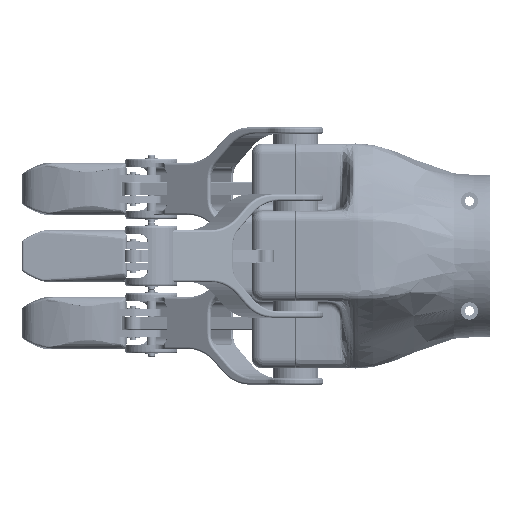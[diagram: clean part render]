
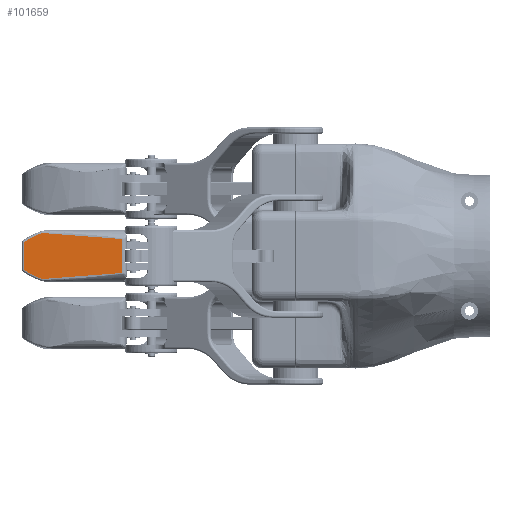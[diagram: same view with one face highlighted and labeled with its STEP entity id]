
A CAD part, left-side view. The second image highlights one B-rep face of the part: STEP entity #101659.
In plain terms, the highlighted planar face has unit normal (-1, 0, 0).
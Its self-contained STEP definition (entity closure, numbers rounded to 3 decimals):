
#317 = CARTESIAN_POINT ( 'NONE',  ( -78.634, 125.929, 9.083 ) ) ;
#973 = DIRECTION ( 'NONE',  ( 0., 0., 1. ) ) ;
#4753 = EDGE_CURVE ( 'NONE', #319670, #211861, #205089, .T. ) ;
#10789 = CARTESIAN_POINT ( 'NONE',  ( -78.634, 157.18, 9.685 ) ) ;
#15147 = VERTEX_POINT ( 'NONE', #215049 ) ;
#20615 =( BOUNDED_CURVE ( )  B_SPLINE_CURVE ( 3, ( #300114, #263719, #334893, #162502 ),
 .UNSPECIFIED., .F., .F. ) 
 B_SPLINE_CURVE_WITH_KNOTS ( ( 4, 4 ),
 ( 5.119, 5.739 ),
 .UNSPECIFIED. ) 
 CURVE ( )  GEOMETRIC_REPRESENTATION_ITEM ( )  RATIONAL_B_SPLINE_CURVE ( ( 1., 0.968, 0.968, 1. ) ) 
 REPRESENTATION_ITEM ( '' )  );
#21319 = VECTOR ( 'NONE', #164116, 1000. ) ;
#39551 = CARTESIAN_POINT ( 'NONE',  ( -78.634, 154.151, 10.63 ) ) ;
#46308 = CARTESIAN_POINT ( 'NONE',  ( -78.634, 117.193, 12. ) ) ;
#47387 = CARTESIAN_POINT ( 'NONE',  ( -78.634, 162.597, -6.404 ) ) ;
#49676 = CARTESIAN_POINT ( 'NONE',  ( -78.634, 117.193, 7.825 ) ) ;
#51577 = EDGE_CURVE ( 'NONE', #409355, #206285, #181953, .T. ) ;
#53320 = ORIENTED_EDGE ( 'NONE', *, *, #364826, .T. ) ;
#53704 = EDGE_CURVE ( 'NONE', #409355, #15147, #375270, .T. ) ;
#68752 = DIRECTION ( 'NONE',  ( 0., -1., 0. ) ) ;
#101659 = ADVANCED_FACE ( 'NONE', ( #187487 ), #380056, .F. ) ;
#104540 = CARTESIAN_POINT ( 'NONE',  ( -78.634, 117.193, 7.825 ) ) ;
#109748 = CARTESIAN_POINT ( 'NONE',  ( -78.634, 162.597, -12. ) ) ;
#110062 = CARTESIAN_POINT ( 'NONE',  ( -78.634, 117.193, -7.825 ) ) ;
#127456 = CARTESIAN_POINT ( 'NONE',  ( -78.634, 162.597, -6.404 ) ) ;
#128739 = CARTESIAN_POINT ( 'NONE',  ( -78.634, 154.151, -10.63 ) ) ;
#132085 = ORIENTED_EDGE ( 'NONE', *, *, #51577, .T. ) ;
#140698 = VERTEX_POINT ( 'NONE', #356651 ) ;
#162502 = CARTESIAN_POINT ( 'NONE',  ( -78.634, 117.193, -7.825 ) ) ;
#164116 = DIRECTION ( 'NONE',  ( 0., 0., 1. ) ) ;
#175515 = CARTESIAN_POINT ( 'NONE',  ( -78.634, 138.653, 10.048 ) ) ;
#179730 = ORIENTED_EDGE ( 'NONE', *, *, #406550, .T. ) ;
#181953 =( BOUNDED_CURVE ( )  B_SPLINE_CURVE ( 3, ( #127456, #328516, #432863, #260390 ),
 .UNSPECIFIED., .F., .T. ) 
 B_SPLINE_CURVE_WITH_KNOTS ( ( 4, 4 ),
 ( 1.734, 2.059 ),
 .UNSPECIFIED. ) 
 CURVE ( )  GEOMETRIC_REPRESENTATION_ITEM ( )  RATIONAL_B_SPLINE_CURVE ( ( 1., 0.991, 0.991, 1. ) ) 
 REPRESENTATION_ITEM ( '' )  );
#187487 = FACE_OUTER_BOUND ( 'NONE', #268826, .T. ) ;
#196625 = CARTESIAN_POINT ( 'NONE',  ( -78.634, 162.597, 6.404 ) ) ;
#202603 = EDGE_CURVE ( 'NONE', #211861, #140698, #243359, .T. ) ;
#205089 = LINE ( 'NONE', #46308, #21319 ) ;
#206285 = VERTEX_POINT ( 'NONE', #128739 ) ;
#207786 = CARTESIAN_POINT ( 'NONE',  ( -78.634, 108.23, -12. ) ) ;
#211861 = VERTEX_POINT ( 'NONE', #49676 ) ;
#213097 =( BOUNDED_CURVE ( )  B_SPLINE_CURVE ( 3, ( #332752, #10789, #303914, #196625 ),
 .UNSPECIFIED., .F., .F. ) 
 B_SPLINE_CURVE_WITH_KNOTS ( ( 4, 4 ),
 ( 4.224, 4.549 ),
 .UNSPECIFIED. ) 
 CURVE ( )  GEOMETRIC_REPRESENTATION_ITEM ( )  RATIONAL_B_SPLINE_CURVE ( ( 1., 0.991, 0.991, 1. ) ) 
 REPRESENTATION_ITEM ( '' )  );
#215049 = CARTESIAN_POINT ( 'NONE',  ( -78.634, 162.597, 6.404 ) ) ;
#243359 =( BOUNDED_CURVE ( )  B_SPLINE_CURVE ( 3, ( #104540, #317, #175515, #39551 ),
 .UNSPECIFIED., .F., .F. ) 
 B_SPLINE_CURVE_WITH_KNOTS ( ( 4, 4 ),
 ( 0.544, 1.164 ),
 .UNSPECIFIED. ) 
 CURVE ( )  GEOMETRIC_REPRESENTATION_ITEM ( )  RATIONAL_B_SPLINE_CURVE ( ( 1., 0.968, 0.968, 1. ) ) 
 REPRESENTATION_ITEM ( '' )  );
#260390 = CARTESIAN_POINT ( 'NONE',  ( -78.634, 154.151, -10.63 ) ) ;
#263719 = CARTESIAN_POINT ( 'NONE',  ( -78.634, 138.653, -10.048 ) ) ;
#268826 = EDGE_LOOP ( 'NONE', ( #441672, #53320, #320268, #132085, #179730, #327101 ) ) ;
#283464 = VECTOR ( 'NONE', #973, 1000. ) ;
#300114 = CARTESIAN_POINT ( 'NONE',  ( -78.634, 154.151, -10.63 ) ) ;
#303914 = CARTESIAN_POINT ( 'NONE',  ( -78.634, 160.02, 8.264 ) ) ;
#319670 = VERTEX_POINT ( 'NONE', #110062 ) ;
#320268 = ORIENTED_EDGE ( 'NONE', *, *, #53704, .F. ) ;
#327101 = ORIENTED_EDGE ( 'NONE', *, *, #4753, .T. ) ;
#328516 = CARTESIAN_POINT ( 'NONE',  ( -78.634, 160.02, -8.264 ) ) ;
#332752 = CARTESIAN_POINT ( 'NONE',  ( -78.634, 154.151, 10.63 ) ) ;
#334893 = CARTESIAN_POINT ( 'NONE',  ( -78.634, 125.929, -9.083 ) ) ;
#351362 = DIRECTION ( 'NONE',  ( 1., 0., 0. ) ) ;
#356651 = CARTESIAN_POINT ( 'NONE',  ( -78.634, 154.151, 10.63 ) ) ;
#364826 = EDGE_CURVE ( 'NONE', #140698, #15147, #213097, .T. ) ;
#375270 = LINE ( 'NONE', #109748, #283464 ) ;
#380056 = PLANE ( 'NONE',  #412207 ) ;
#406550 = EDGE_CURVE ( 'NONE', #206285, #319670, #20615, .T. ) ;
#409355 = VERTEX_POINT ( 'NONE', #47387 ) ;
#412207 = AXIS2_PLACEMENT_3D ( 'NONE', #207786, #351362, #68752 ) ;
#432863 = CARTESIAN_POINT ( 'NONE',  ( -78.634, 157.18, -9.685 ) ) ;
#441672 = ORIENTED_EDGE ( 'NONE', *, *, #202603, .T. ) ;
